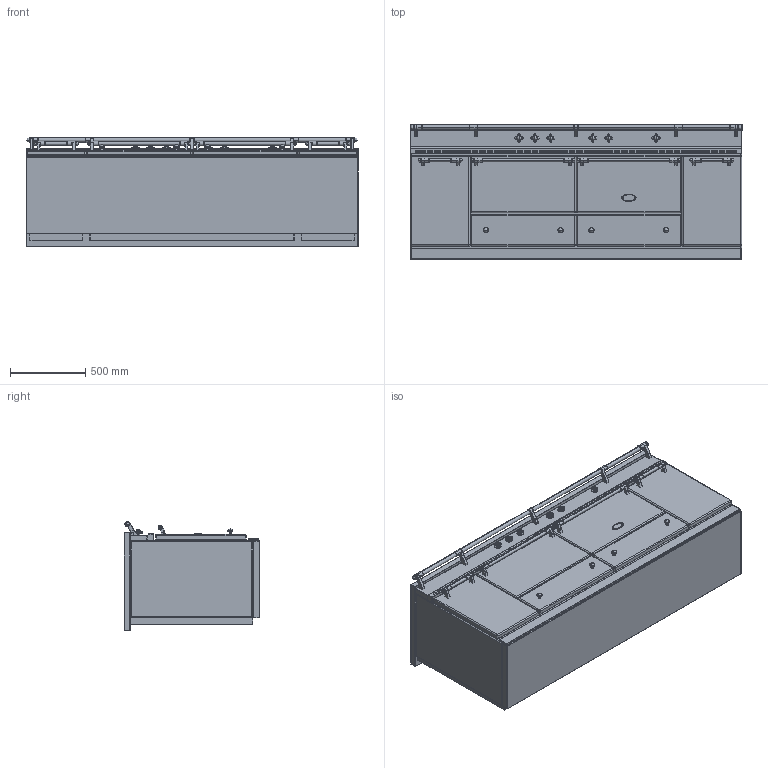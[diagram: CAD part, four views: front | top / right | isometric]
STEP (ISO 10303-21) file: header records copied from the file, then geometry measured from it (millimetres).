
FILE_DESCRIPTION((''),'2;1');
FILE_NAME('LVTR2242_ASM','2014-07-29T',('r.avril'),(''),'PRO/ENGINEER BY PARAMETRIC TECHNOLOGY CORPORATION, 2014090','PRO/ENGINEER BY PARAMETRIC TECHNOLOGY CORPORATION, 2014090','');
FILE_SCHEMA(('AP203_CONFIGURATION_CONTROLLED_3D_DESIGN_OF_MECHANICAL_PARTS_AND_ASSEMBLIES_MIM_LF { 1 0 10303 403 2 1 2 }'));
Products named in the file (20): BASE_EXPORT_SULLY_LVTR2242; 65650003; 65650004; 65650005; 6531940; 6531941; 6531943; 65049009; 65650001; 65650006; 65650007; 6538399; 1931942; 6518450; 6531942_ASM; BASE_EXPORT_SULLY_LVTR2242_ASM; TABLE_SULLY_2200_INDUCTION_VTR; 65052002; TABLE_SULLY_2200_VTR_ASM; LVTR2242_ASM
Assembly tree (33 placements, depth 4):
  LVTR2242_ASM
    BASE_EXPORT_SULLY_LVTR2242_ASM
      BASE_EXPORT_SULLY_LVTR2242
      65650003
      65650004
      65650005
      6531940  x4
      6531941  x4
      6531943  x4
      65049009
      65650001
      65650006
      65650007
      6531942_ASM  x6
        6538399
        1931942
        6518450
    TABLE_SULLY_2200_VTR_ASM
      TABLE_SULLY_2200_INDUCTION_VTR
      65052002
Bounding box: 2205 x 900.7 x 724 mm (x, y, z)
Volume: 1156725572 mm3; surface area: 16274182.8 mm2
Topology: 43 solids, 60 shells, 3937 faces, 10460 edges, 6953 vertices
Faces by surface type: plane 1925, cylinder 1234, torus 260, sphere 178, extrusion 170, cone 84, bspline 66, revolution 20
Entity records: 84004 total; most frequent: CARTESIAN_POINT 16561, DIRECTION 12130, ORIENTED_EDGE 9874, EDGE_CURVE 4953, AXIS2_PLACEMENT_3D 4308, VECTOR 3446, LINE 3416, VERTEX_POINT 3136
